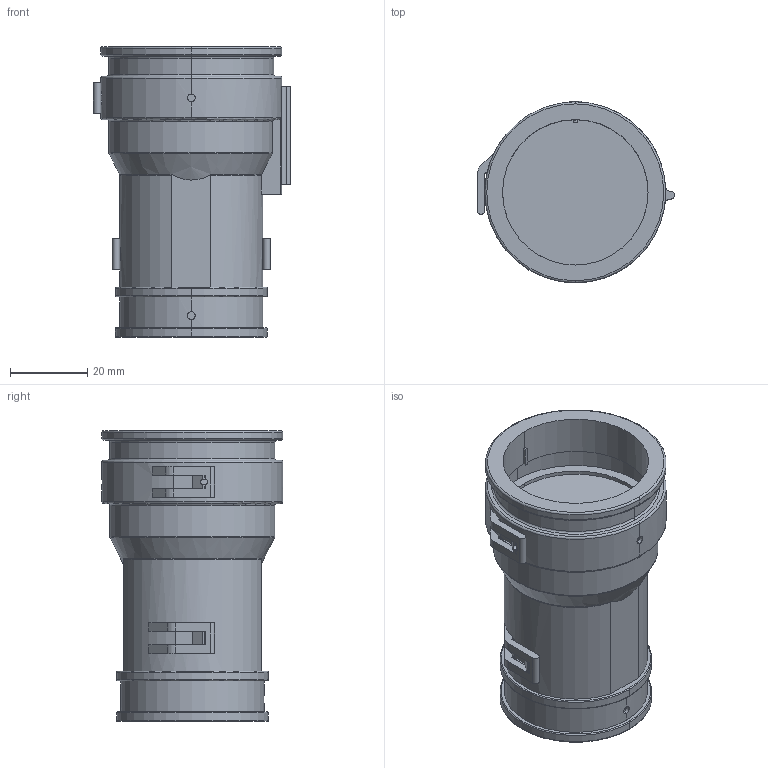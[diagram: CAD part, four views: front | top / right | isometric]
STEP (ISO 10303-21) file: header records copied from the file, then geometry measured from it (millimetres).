
FILE_DESCRIPTION((''),'2;1');
FILE_NAME('C-2428-010-2405','2013-11-26T',('workeradm'),('Tyco Electronics Ltd.'),'PRO/ENGINEER BY PARAMETRIC TECHNOLOGY CORPORATION, 2013050','PRO/ENGINEER BY PARAMETRIC TECHNOLOGY CORPORATION, 2013050','');
FILE_SCHEMA(('AUTOMOTIVE_DESIGN { 1 0 10303 214 1 1 1 1 }'));
Length unit declared in the file: millimetre
Products named in the file (1): C-2428-010-2405
Bounding box: 50.92 x 46.94 x 75.16 mm (x, y, z)
Volume: 74969.2 mm3; surface area: 17367.2 mm2
Topology: 1 solids, 1 shells, 189 faces, 511 edges, 319 vertices
Faces by surface type: plane 108, cylinder 56, torus 24, cone 1
Entity records: 6415 total; most frequent: CARTESIAN_POINT 1390, DIRECTION 1032, ORIENTED_EDGE 1022, EDGE_CURVE 511, AXIS2_PLACEMENT_3D 366, VERTEX_POINT 319, VECTOR 300, LINE 300
